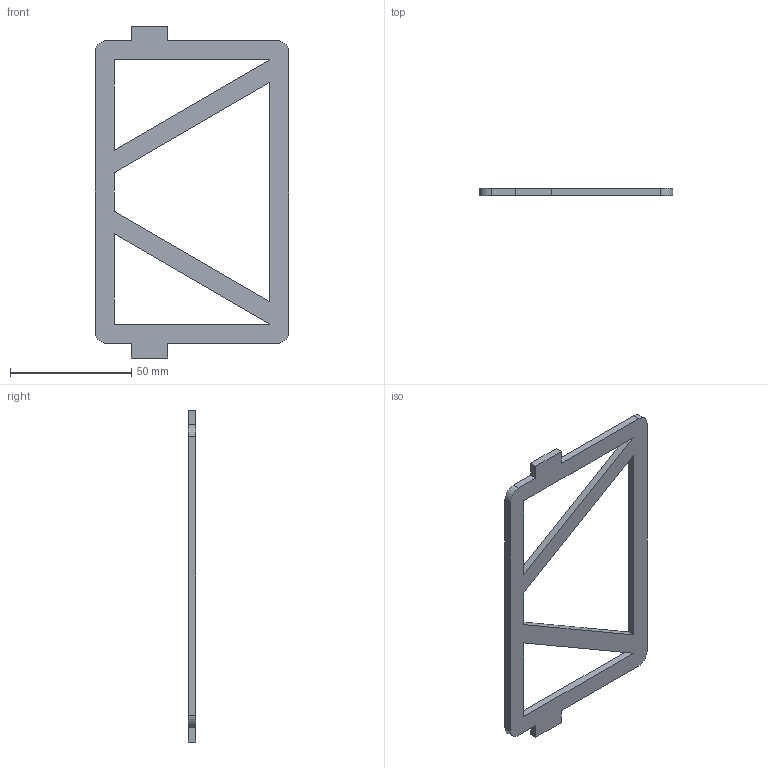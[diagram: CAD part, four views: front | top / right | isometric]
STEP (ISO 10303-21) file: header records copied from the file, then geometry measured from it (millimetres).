
FILE_DESCRIPTION(/* description */ (''),/* implementation_level */ '2;1');
FILE_NAME(/* name */ 'Battery Floor v10.step',/* time_stamp */ '2023-09-02T21:53:06+03:00',/* author */ (''),/* organization */ (''),/* preprocessor_version */ 'ST-DEVELOPER v20',/* originating_system */ 'Autodesk Translation Framework v12.9.0.99',/* authorisation */ '');
FILE_SCHEMA (('AUTOMOTIVE_DESIGN { 1 0 10303 214 3 1 1 }'));
Length unit declared in the file: millimetre
Products named in the file (1): Battery Floor
Bounding box: 80 x 3 x 137 mm (x, y, z)
Volume: 13101.9 mm3; surface area: 11826.4 mm2
Topology: 1 solids, 1 shells, 28 faces, 78 edges, 52 vertices
Faces by surface type: plane 24, cylinder 4
Entity records: 942 total; most frequent: CARTESIAN_POINT 159, ORIENTED_EDGE 156, DIRECTION 144, EDGE_CURVE 78, LINE 70, VECTOR 70, VERTEX_POINT 52, AXIS2_PLACEMENT_3D 37
